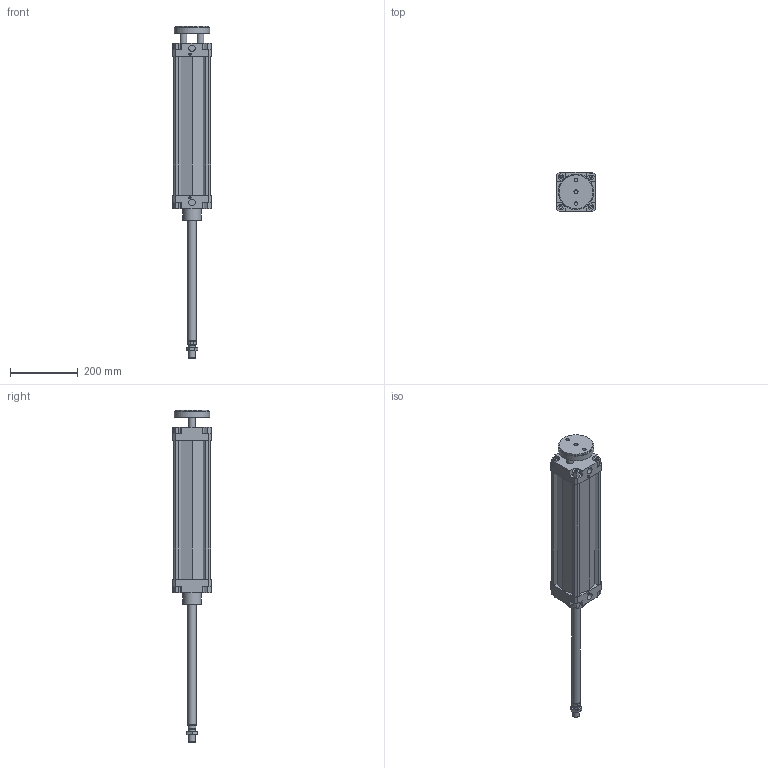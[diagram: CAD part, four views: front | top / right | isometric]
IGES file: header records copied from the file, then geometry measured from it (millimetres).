
Global section: file name: 132#_100_0350_02; native system: Autodesk Inventor 2014; preprocessor: unknown; author: A. Manieri; date: 20161006.163751; units: millimetre
Bounding box: 115 x 115 x 980 mm (x, y, z)
Volume: 3137180.2 mm3; surface area: 575581.5 mm2
Topology: 3 solids, 3 shells, 220 faces, 589 edges, 397 vertices
Faces by surface type: bspline 220
